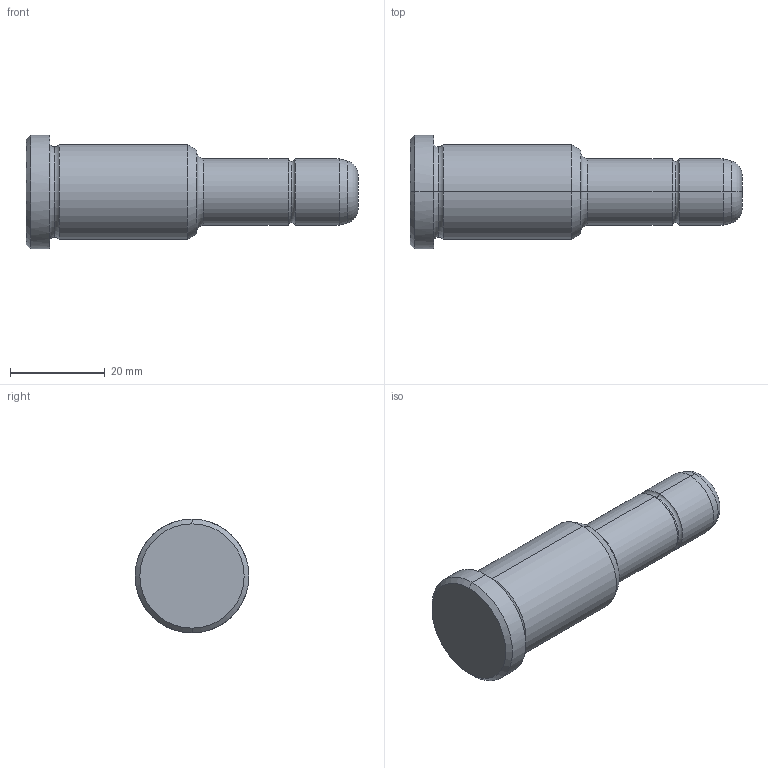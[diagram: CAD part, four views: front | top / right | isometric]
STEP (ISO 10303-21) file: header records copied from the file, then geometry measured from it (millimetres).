
FILE_DESCRIPTION(('CATIA V5 STEP Exchange'),'2;1');
FILE_NAME('C:\Users\Utente\Desktop\IO LAVORO\3D X SITO CF\X SITO\PLASTICA\351\351-14X36X70.stp','2021-08-18T10:47:30+00:00',('none'),('none'),'CATIA Version 5 Release 20 GA (IN-10)','CATIA V5 STEP AP203','none');
FILE_SCHEMA(('CONFIG_CONTROL_DESIGN'));
Length unit declared in the file: millimetre
Products named in the file (1): 351-14X36X70
Bounding box: 70 x 24 x 24 mm (x, y, z)
Volume: 16958.4 mm3; surface area: 4546.5 mm2
Topology: 1 solids, 1 shells, 30 faces, 86 edges, 60 vertices
Faces by surface type: torus 12, cylinder 8, cone 6, plane 4
Entity records: 1112 total; most frequent: CARTESIAN_POINT 289, ORIENTED_EDGE 172, DIRECTION 138, AXIS2_PLACEMENT_3D 95, EDGE_CURVE 86, CIRCLE 64, VERTEX_POINT 60, EDGE_LOOP 32
